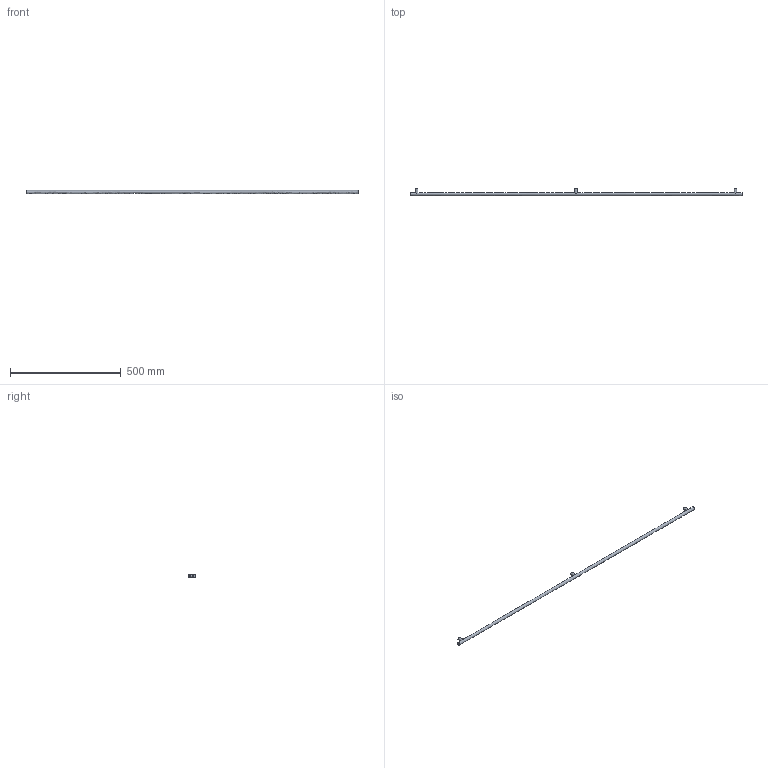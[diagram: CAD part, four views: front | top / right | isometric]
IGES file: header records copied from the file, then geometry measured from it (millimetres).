
Start section: Data from Parasolid IGES Translator 15.0.47, Copyright(c) 2006 Siemens P LM Software. All Rights Reserved.
Global section: file name: 9071120.igs; native system:  By UGS Corp.; preprocessor: XPlus GENERIC/IGES 3.0; author: Noname; organization: Noname; date: 20140122.181455; units: millimetre
Bounding box: 1500 x 35 x 14 mm (x, y, z)
Surface area: 69239.1 mm2 (no closed solid volume)
Topology: 0 solids, 0 shells, 15 faces, 42 edges, 30 vertices
Faces by surface type: extrusion 8, revolution 7
